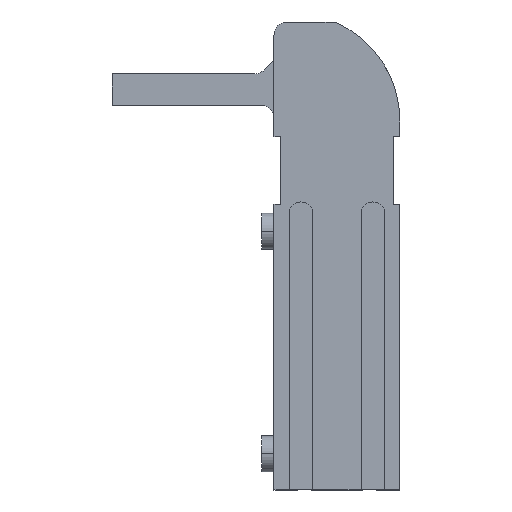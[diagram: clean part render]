
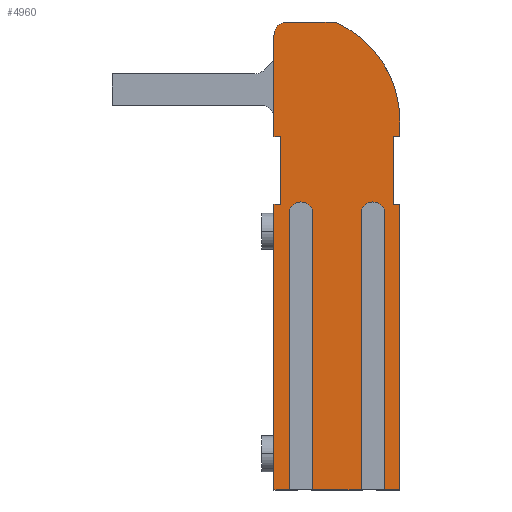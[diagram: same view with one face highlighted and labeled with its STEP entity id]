
A CAD part, top view. The second image highlights one B-rep face of the part: STEP entity #4960.
In plain terms, the highlighted planar face has unit normal (0, 0, 1).
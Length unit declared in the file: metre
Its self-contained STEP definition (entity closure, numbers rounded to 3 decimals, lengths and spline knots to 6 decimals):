
#132=DIRECTION('',(-1.,0.,0.));
#133=VECTOR('',#132,0.0015);
#134=CARTESIAN_POINT('',(-0.0025,-0.0045,0.012));
#135=LINE('',#134,#133);
#281=DIRECTION('',(0.,1.,0.));
#282=VECTOR('',#281,0.015);
#283=CARTESIAN_POINT('',(-0.0025,-0.0195,0.012));
#284=LINE('',#283,#282);
#726=DIRECTION('',(1.,0.,0.));
#727=VECTOR('',#726,0.0015);
#728=CARTESIAN_POINT('',(-0.004,-0.0195,0.012));
#729=LINE('',#728,#727);
#747=DIRECTION('',(0.,1.,0.));
#748=VECTOR('',#747,0.0635);
#749=CARTESIAN_POINT('',(-0.004,-0.083,0.012));
#750=LINE('',#749,#748);
#1087=CARTESIAN_POINT('',(0.002,-0.02165,0.012));
#1088=DIRECTION('',(0.,0.,-1.));
#1089=DIRECTION('',(-1.,0.,0.));
#1090=AXIS2_PLACEMENT_3D('',#1087,#1088,#1089);
#1095=DIRECTION('',(0.,1.,0.));
#1096=VECTOR('',#1095,0.06135);
#1097=CARTESIAN_POINT('',(-0.00065,-0.083,0.012));
#1098=LINE('',#1097,#1096);
#1102=DIRECTION('',(1.,0.,0.));
#1103=VECTOR('',#1102,0.00335);
#1104=CARTESIAN_POINT('',(-0.004,-0.083,0.012));
#1105=LINE('',#1104,#1103);
#1109=CARTESIAN_POINT('',(-0.001,0.018,0.012));
#1110=DIRECTION('',(0.,0.,1.));
#1111=DIRECTION('',(-0.707,0.707,0.));
#1112=AXIS2_PLACEMENT_3D('',#1109,#1110,#1111);
#1117=CARTESIAN_POINT('',(-0.001,0.018,0.012));
#1118=DIRECTION('',(0.,0.,1.));
#1119=DIRECTION('',(0.,1.,0.));
#1120=AXIS2_PLACEMENT_3D('',#1117,#1118,#1119);
#1125=CARTESIAN_POINT('',(0.,-0.001,0.012));
#1126=DIRECTION('',(0.,0.,1.));
#1127=DIRECTION('',(0.837,0.548,0.));
#1128=AXIS2_PLACEMENT_3D('',#1125,#1126,#1127);
#1133=CARTESIAN_POINT('',(0.,-0.001,0.012));
#1134=DIRECTION('',(0.,0.,1.));
#1135=DIRECTION('',(1.,0.,0.));
#1136=AXIS2_PLACEMENT_3D('',#1133,#1134,#1135);
#1141=DIRECTION('',(0.,1.,0.));
#1142=VECTOR('',#1141,0.015);
#1143=CARTESIAN_POINT('',(0.0225,-0.0195,0.012));
#1144=LINE('',#1143,#1142);
#1148=DIRECTION('',(1.,0.,0.));
#1149=VECTOR('',#1148,0.00335);
#1150=CARTESIAN_POINT('',(0.02065,-0.083,0.012));
#1151=LINE('',#1150,#1149);
#1155=CARTESIAN_POINT('',(0.018,-0.02165,0.012));
#1156=DIRECTION('',(0.,0.,-1.));
#1157=DIRECTION('',(0.,1.,0.));
#1158=AXIS2_PLACEMENT_3D('',#1155,#1156,#1157);
#1163=CARTESIAN_POINT('',(0.018,-0.02165,0.012));
#1164=DIRECTION('',(0.,0.,-1.));
#1165=DIRECTION('',(-1.,0.,0.));
#1166=AXIS2_PLACEMENT_3D('',#1163,#1164,#1165);
#1171=DIRECTION('',(1.,0.,0.));
#1172=VECTOR('',#1171,0.0107);
#1173=CARTESIAN_POINT('',(0.00465,-0.083,0.012));
#1174=LINE('',#1173,#1172);
#1178=CARTESIAN_POINT('',(0.002,-0.02165,0.012));
#1179=DIRECTION('',(0.,0.,-1.));
#1180=DIRECTION('',(0.,1.,0.));
#1181=AXIS2_PLACEMENT_3D('',#1178,#1179,#1180);
#1207=DIRECTION('',(0.,1.,0.));
#1208=VECTOR('',#1207,0.06135);
#1209=CARTESIAN_POINT('',(0.00465,-0.083,0.012));
#1210=LINE('',#1209,#1208);
#1221=DIRECTION('',(0.,1.,0.));
#1222=VECTOR('',#1221,0.0225);
#1223=CARTESIAN_POINT('',(-0.004,-0.0045,0.012));
#1224=LINE('',#1223,#1222);
#1981=DIRECTION('',(0.,-1.,0.));
#1982=VECTOR('',#1981,0.0635);
#1983=CARTESIAN_POINT('',(0.024,-0.0195,0.012));
#1984=LINE('',#1983,#1982);
#2214=DIRECTION('',(1.,0.,0.));
#2215=VECTOR('',#2214,0.0015);
#2216=CARTESIAN_POINT('',(0.0225,-0.0195,0.012));
#2217=LINE('',#2216,#2215);
#2794=DIRECTION('',(-1.,0.,0.));
#2795=VECTOR('',#2794,0.0015);
#2796=CARTESIAN_POINT('',(0.024,-0.0045,0.012));
#2797=LINE('',#2796,#2795);
#2808=DIRECTION('',(0.,-1.,0.));
#2809=VECTOR('',#2808,0.0035);
#2810=CARTESIAN_POINT('',(0.024,-0.001,0.012));
#2811=LINE('',#2810,#2809);
#2906=DIRECTION('',(1.,0.,0.));
#2907=VECTOR('',#2906,0.010592);
#2908=CARTESIAN_POINT('',(-0.001,0.021,0.012));
#2909=LINE('',#2908,#2907);
#2927=DIRECTION('',(0.,1.,0.));
#2928=VECTOR('',#2927,0.06135);
#2929=CARTESIAN_POINT('',(0.02065,-0.083,0.012));
#2930=LINE('',#2929,#2928);
#3189=DIRECTION('',(0.,-1.,0.));
#3190=VECTOR('',#3189,0.06135);
#3191=CARTESIAN_POINT('',(0.01535,-0.02165,0.012));
#3192=LINE('',#3191,#3190);
#3538=CARTESIAN_POINT('',(0.0225,-0.0195,0.012));
#3539=VERTEX_POINT('',#3538);
#3540=CARTESIAN_POINT('',(0.0225,-0.0045,0.012));
#3541=VERTEX_POINT('',#3540);
#3638=CARTESIAN_POINT('',(0.00465,-0.083,0.012));
#3639=VERTEX_POINT('',#3638);
#3640=CARTESIAN_POINT('',(0.01535,-0.083,0.012));
#3641=VERTEX_POINT('',#3640);
#3662=CARTESIAN_POINT('',(0.02065,-0.083,0.012));
#3663=VERTEX_POINT('',#3662);
#3664=CARTESIAN_POINT('',(0.024,-0.083,0.012));
#3665=VERTEX_POINT('',#3664);
#3676=CARTESIAN_POINT('',(-0.004,-0.083,0.012));
#3677=VERTEX_POINT('',#3676);
#3678=CARTESIAN_POINT('',(-0.00065,-0.083,0.012));
#3679=VERTEX_POINT('',#3678);
#3712=CARTESIAN_POINT('',(-0.00065,-0.02165,0.012));
#3713=VERTEX_POINT('',#3712);
#3714=CARTESIAN_POINT('',(-0.004,-0.0195,0.012));
#3715=VERTEX_POINT('',#3714);
#3716=CARTESIAN_POINT('',(-0.0025,-0.0195,0.012));
#3717=VERTEX_POINT('',#3716);
#3718=CARTESIAN_POINT('',(-0.0025,-0.0045,0.012));
#3719=VERTEX_POINT('',#3718);
#3720=CARTESIAN_POINT('',(-0.004,-0.0045,0.012));
#3721=VERTEX_POINT('',#3720);
#3722=CARTESIAN_POINT('',(-0.004,0.018,0.012));
#3723=VERTEX_POINT('',#3722);
#3724=CARTESIAN_POINT('',(-0.003121,0.020121,0.012));
#3725=VERTEX_POINT('',#3724);
#3726=CARTESIAN_POINT('',(-0.001,0.021,0.012));
#3727=VERTEX_POINT('',#3726);
#3728=CARTESIAN_POINT('',(0.009592,0.021,0.012));
#3729=VERTEX_POINT('',#3728);
#3730=CARTESIAN_POINT('',(0.020077,0.012149,0.012));
#3731=VERTEX_POINT('',#3730);
#3732=CARTESIAN_POINT('',(0.024,-0.001,0.012));
#3733=VERTEX_POINT('',#3732);
#3734=CARTESIAN_POINT('',(0.024,-0.0045,0.012));
#3735=VERTEX_POINT('',#3734);
#3736=CARTESIAN_POINT('',(0.024,-0.0195,0.012));
#3737=VERTEX_POINT('',#3736);
#3738=CARTESIAN_POINT('',(0.02065,-0.02165,0.012));
#3739=VERTEX_POINT('',#3738);
#3740=CARTESIAN_POINT('',(0.018,-0.019,0.012));
#3741=VERTEX_POINT('',#3740);
#3742=CARTESIAN_POINT('',(0.01535,-0.02165,0.012));
#3743=VERTEX_POINT('',#3742);
#3744=CARTESIAN_POINT('',(0.00465,-0.02165,0.012));
#3745=VERTEX_POINT('',#3744);
#3746=CARTESIAN_POINT('',(0.002,-0.019,0.012));
#3747=VERTEX_POINT('',#3746);
#4909=CARTESIAN_POINT('',(-0.001,0.018,0.012));
#4910=DIRECTION('',(0.,0.,1.));
#4911=DIRECTION('',(1.,0.,0.));
#4912=AXIS2_PLACEMENT_3D('',#4909,#4910,#4911);
#4913=PLANE('',#4912);
#4915=ORIENTED_EDGE('',*,*,#4914,.F.);
#4916=ORIENTED_EDGE('',*,*,#4902,.F.);
#4917=ORIENTED_EDGE('',*,*,#4739,.F.);
#4918=ORIENTED_EDGE('',*,*,#4646,.T.);
#4919=ORIENTED_EDGE('',*,*,#4631,.T.);
#4920=ORIENTED_EDGE('',*,*,#4200,.T.);
#4921=ORIENTED_EDGE('',*,*,#4185,.T.);
#4923=ORIENTED_EDGE('',*,*,#4922,.T.);
#4925=ORIENTED_EDGE('',*,*,#4924,.F.);
#4927=ORIENTED_EDGE('',*,*,#4926,.F.);
#4929=ORIENTED_EDGE('',*,*,#4928,.T.);
#4931=ORIENTED_EDGE('',*,*,#4930,.F.);
#4933=ORIENTED_EDGE('',*,*,#4932,.F.);
#4935=ORIENTED_EDGE('',*,*,#4934,.T.);
#4937=ORIENTED_EDGE('',*,*,#4936,.T.);
#4939=ORIENTED_EDGE('',*,*,#4938,.F.);
#4941=ORIENTED_EDGE('',*,*,#4940,.T.);
#4943=ORIENTED_EDGE('',*,*,#4942,.T.);
#4944=ORIENTED_EDGE('',*,*,#4712,.F.);
#4946=ORIENTED_EDGE('',*,*,#4945,.T.);
#4948=ORIENTED_EDGE('',*,*,#4947,.F.);
#4950=ORIENTED_EDGE('',*,*,#4949,.F.);
#4952=ORIENTED_EDGE('',*,*,#4951,.T.);
#4953=ORIENTED_EDGE('',*,*,#4688,.F.);
#4955=ORIENTED_EDGE('',*,*,#4954,.T.);
#4957=ORIENTED_EDGE('',*,*,#4956,.F.);
#4958=EDGE_LOOP('',(#4915,#4916,#4917,#4918,#4919,#4920,#4921,#4923,#4925,#4927,
#4929,#4931,#4933,#4935,#4937,#4939,#4941,#4943,#4944,#4946,#4948,#4950,#4952,
#4953,#4955,#4957));
#4959=FACE_OUTER_BOUND('',#4958,.F.);
#1091=CIRCLE('',#1090,0.00265);
#1113=CIRCLE('',#1112,0.003);
#1121=CIRCLE('',#1120,0.003);
#1129=CIRCLE('',#1128,0.024);
#1137=CIRCLE('',#1136,0.024);
#1159=CIRCLE('',#1158,0.00265);
#1167=CIRCLE('',#1166,0.00265);
#1182=CIRCLE('',#1181,0.00265);
#4185=EDGE_CURVE('',#3719,#3721,#135,.T.);
#4200=EDGE_CURVE('',#3717,#3719,#284,.T.);
#4631=EDGE_CURVE('',#3715,#3717,#729,.T.);
#4646=EDGE_CURVE('',#3677,#3715,#750,.T.);
#4688=EDGE_CURVE('',#3639,#3641,#1174,.T.);
#4712=EDGE_CURVE('',#3663,#3665,#1151,.T.);
#4739=EDGE_CURVE('',#3677,#3679,#1105,.T.);
#4902=EDGE_CURVE('',#3679,#3713,#1098,.T.);
#4914=EDGE_CURVE('',#3713,#3747,#1091,.T.);
#4922=EDGE_CURVE('',#3721,#3723,#1224,.T.);
#4924=EDGE_CURVE('',#3725,#3723,#1113,.T.);
#4926=EDGE_CURVE('',#3727,#3725,#1121,.T.);
#4928=EDGE_CURVE('',#3727,#3729,#2909,.T.);
#4930=EDGE_CURVE('',#3731,#3729,#1129,.T.);
#4932=EDGE_CURVE('',#3733,#3731,#1137,.T.);
#4934=EDGE_CURVE('',#3733,#3735,#2811,.T.);
#4936=EDGE_CURVE('',#3735,#3541,#2797,.T.);
#4938=EDGE_CURVE('',#3539,#3541,#1144,.T.);
#4940=EDGE_CURVE('',#3539,#3737,#2217,.T.);
#4942=EDGE_CURVE('',#3737,#3665,#1984,.T.);
#4945=EDGE_CURVE('',#3663,#3739,#2930,.T.);
#4947=EDGE_CURVE('',#3741,#3739,#1159,.T.);
#4949=EDGE_CURVE('',#3743,#3741,#1167,.T.);
#4951=EDGE_CURVE('',#3743,#3641,#3192,.T.);
#4954=EDGE_CURVE('',#3639,#3745,#1210,.T.);
#4956=EDGE_CURVE('',#3747,#3745,#1182,.T.);
#4960=ADVANCED_FACE('',(#4959),#4913,.T.);
